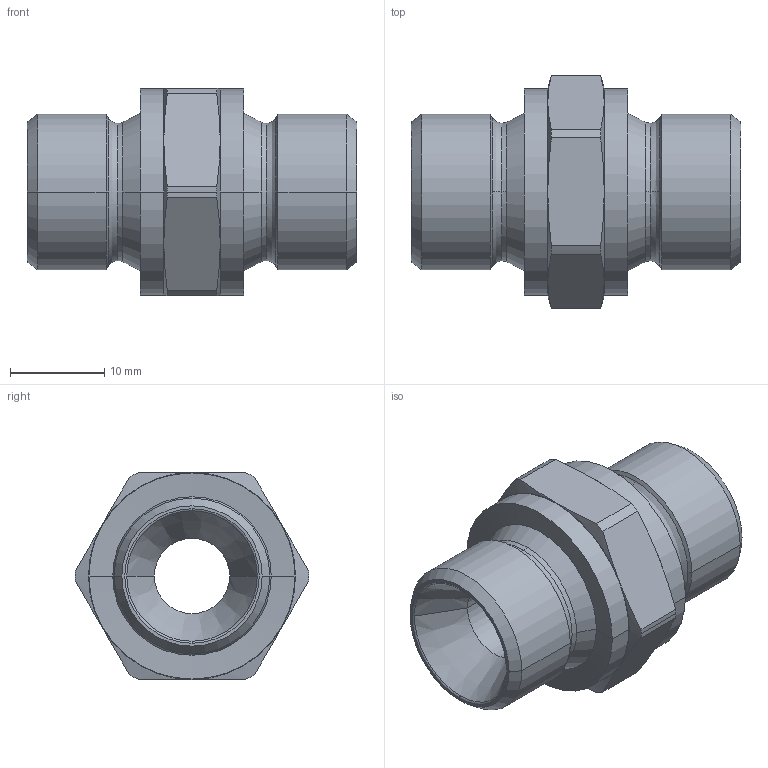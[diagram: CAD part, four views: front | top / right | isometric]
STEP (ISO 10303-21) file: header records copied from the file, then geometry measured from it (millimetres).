
FILE_DESCRIPTION((''),'2;1');
FILE_NAME('300508.stp','2006-09-11T08:09:35',(''),(''),'AutoCAD STEP 2000i','AutoCAD 2000i',', , ');
FILE_SCHEMA(('CONFIG_CONTROL_DESIGN'));
Length unit declared in the file: millimetre
Products named in the file (2): 300508.0; CHIAVE SMUSSATA#0
Assembly tree (1 placements, depth 2):
  300508.0
    CHIAVE SMUSSATA#0
Bounding box: 35 x 24.8 x 22 mm (x, y, z)
Volume: 7020.9 mm3; surface area: 3562.7 mm2
Topology: 1 solids, 1 shells, 72 faces, 170 edges, 102 vertices
Faces by surface type: cone 32, cylinder 18, plane 10, bspline 8, torus 4
Entity records: 2493 total; most frequent: CARTESIAN_POINT 746, DIRECTION 380, ORIENTED_EDGE 340, EDGE_CURVE 170, AXIS2_PLACEMENT_3D 168, VERTEX_POINT 102, CIRCLE 102, EDGE_LOOP 76
